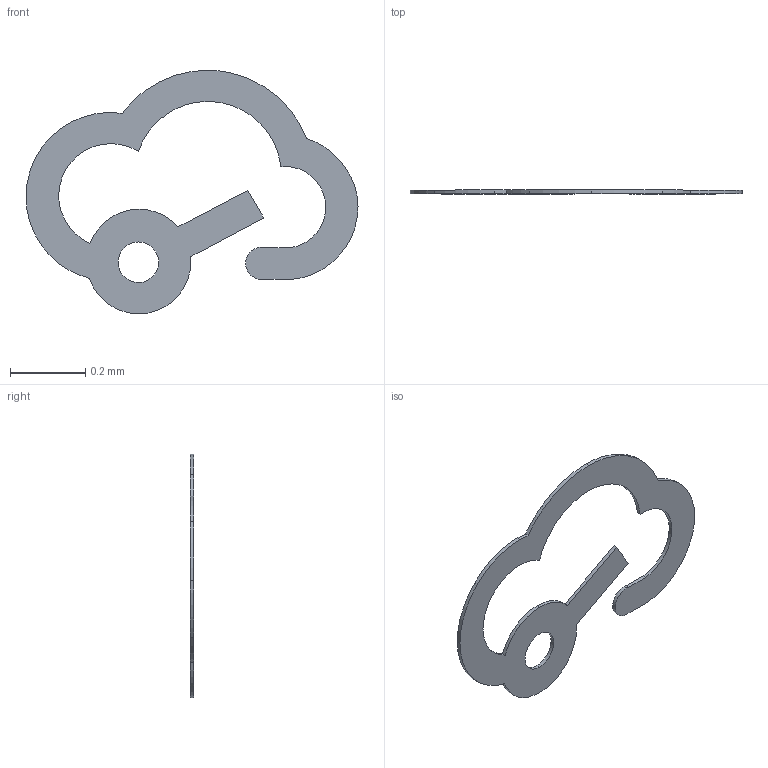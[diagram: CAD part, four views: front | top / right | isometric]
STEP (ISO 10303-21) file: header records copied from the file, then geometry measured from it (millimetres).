
FILE_DESCRIPTION(/* description */ ('STEP AP242 Edition 2','CAx-IF Rec.Pracs.---Representation and Presentation of Product Manufacturing Information (PMI)---4.0---2014-10-13','CAx-IF Rec.Pracs.---3D Tessellated Geometry---0.4---2014-09-14','2;1','CAx-IF Rec.Pracs.---User Defined Attributes---1.5---2016-08-15'),/* implementation_level */ '2;1');
FILE_NAME(/* name */ 'Assembly 1 - SW-TH_3P-L5.8_WSGT-3P-CC~SW-TH_3P-L5.8_WSGT-3P-CC~nxQB (11)',/* time_stamp */ '2026-04-02T09:55:27Z',/* author */ (''),/* organization */ (''),/* preprocessor_version */ 'ST-DEVELOPER v20',/* originating_system */ 'ONSHAPE BY PTC INC, 1.212',/* authorisation */ ' ');
FILE_SCHEMA (('AP242_MANAGED_MODEL_BASED_3D_ENGINEERING_MIM_LF { 1 0 10303 442 3 1 4 }'));
Length unit declared in the file: metre
Products named in the file (1): SW-TH_3P-L5.8_WSGT-3P-CC~SW-TH_3P-L5.8_WSGT-3P-CC~nxQB
Bounding box: 0.88 x 0.01 x 0.65 mm (x, y, z)
Volume: 0 mm3; surface area: 0.5 mm2
Topology: 1 solids, 1 shells, 37 faces, 105 edges, 70 vertices
Faces by surface type: cylinder 24, plane 10, bspline 3
Entity records: 1556 total; most frequent: CARTESIAN_POINT 327, ORIENTED_EDGE 210, DIRECTION 192, EDGE_CURVE 105, AXIS2_PLACEMENT_3D 83, VERTEX_POINT 70, CIRCLE 48, EDGE_LOOP 39
